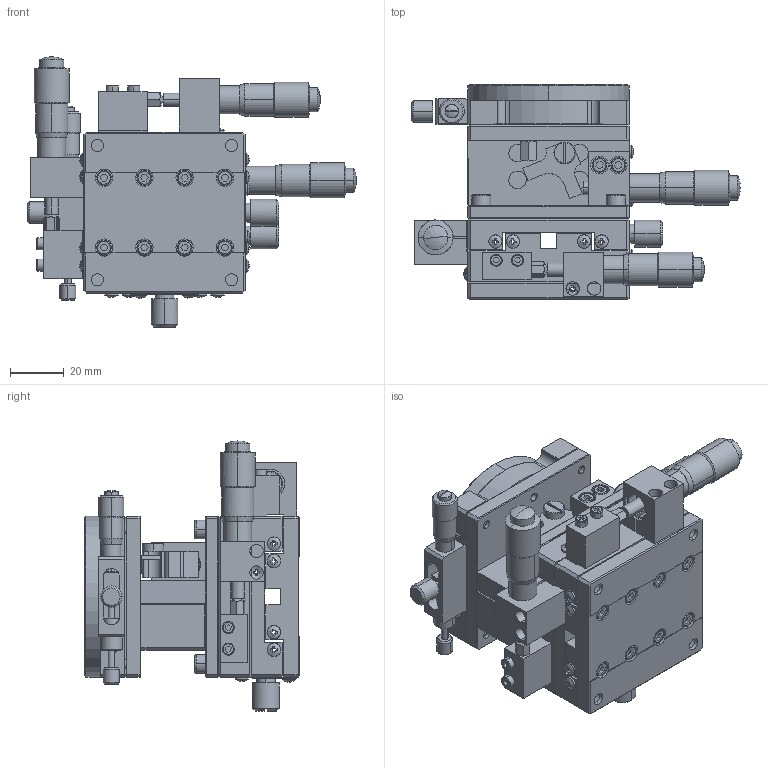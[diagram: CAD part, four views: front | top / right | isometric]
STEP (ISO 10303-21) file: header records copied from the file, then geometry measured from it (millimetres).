
FILE_DESCRIPTION (( 'STEP AP214' ), '1' );
FILE_NAME ('LD60-R.STEP', '2022-09-12T09:03:51', ( '' ), ( '' ), 'SwSTEP 2.0', 'SolidWorks 2017', '' );
FILE_SCHEMA (( 'AUTOMOTIVE_DESIGN' ));
Products named in the file (1): LD60-R
Bounding box: 122.46 x 80 x 100.6 mm (x, y, z)
Surface area: 84831.7 mm2 (no closed solid volume)
Topology: 0 solids, 61 shells, 1254 faces, 3753 edges, 2552 vertices
Faces by surface type: plane 762, cylinder 257, cone 147, bspline 88
Entity records: 52298 total; most frequent: CARTESIAN_POINT 20287, ORIENTED_EDGE 6447, DIRECTION 6083, EDGE_CURVE 3717, VERTEX_POINT 2552, LINE 2109, VECTOR 2109, AXIS2_PLACEMENT_3D 1987
